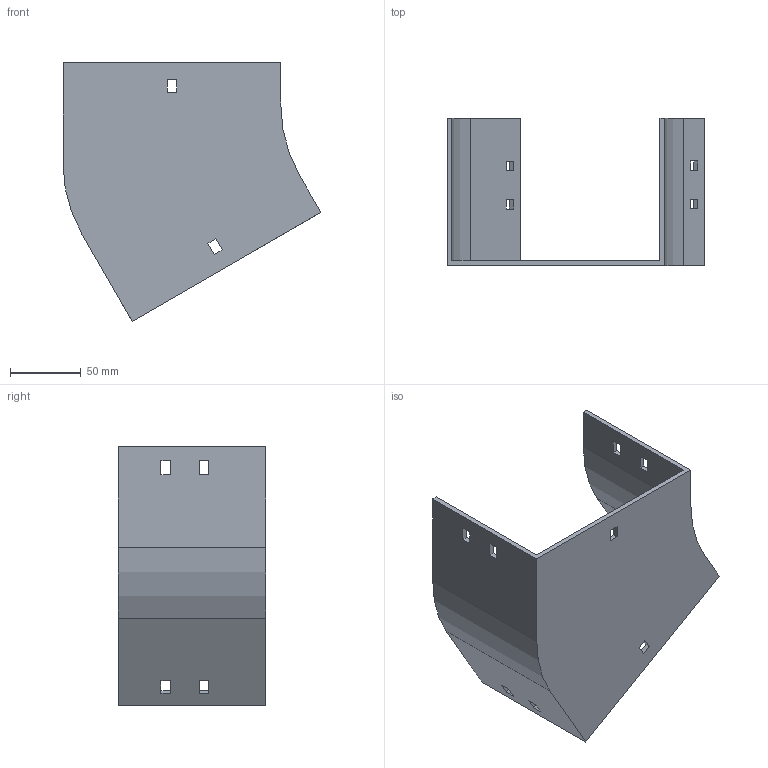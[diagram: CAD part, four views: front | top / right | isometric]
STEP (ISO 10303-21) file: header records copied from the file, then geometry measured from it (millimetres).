
FILE_DESCRIPTION (( 'STEP AP214' ), '1' );
FILE_NAME ('12F1D150.step', '2025-02-21T12:53:30', ( '' ), ( '' ), 'SwSTEP 2.0', 'SolidWorks 2023', '' );
FILE_SCHEMA (( 'AUTOMOTIVE_DESIGN' ));
Length unit declared in the file: millimetre
Products named in the file (1): 12F1D150
Bounding box: 182.4 x 104 x 182.98 mm (x, y, z)
Volume: 189171.3 mm3; surface area: 112827.3 mm2
Topology: 1 solids, 1 shells, 58 faces, 168 edges, 112 vertices
Faces by surface type: plane 54, cylinder 4
Entity records: 1943 total; most frequent: CARTESIAN_POINT 339, ORIENTED_EDGE 336, DIRECTION 294, EDGE_CURVE 168, LINE 160, VECTOR 160, VERTEX_POINT 112, EDGE_LOOP 78
